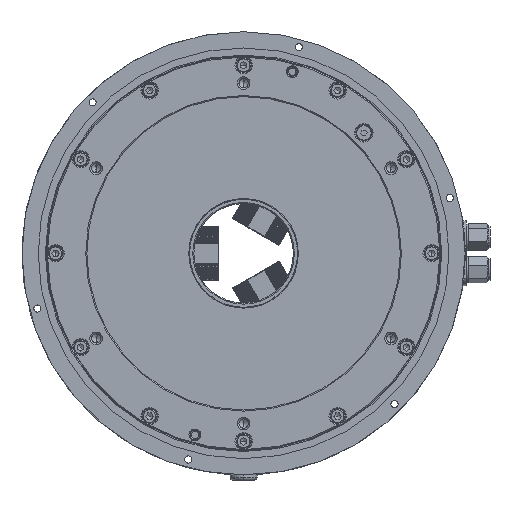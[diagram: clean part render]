
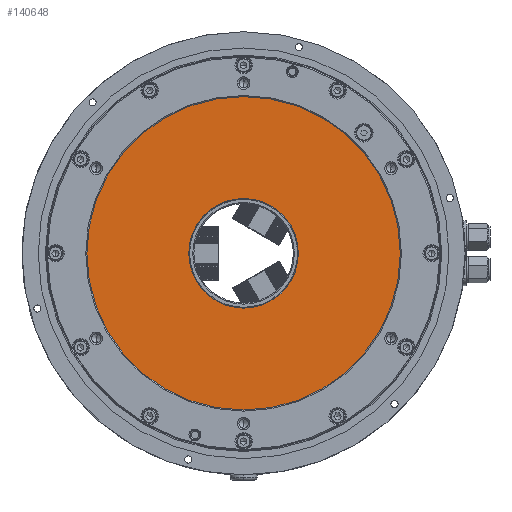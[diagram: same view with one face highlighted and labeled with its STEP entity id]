
A CAD part, left-side view. The second image highlights one B-rep face of the part: STEP entity #140648.
In plain terms, the highlighted planar face has unit normal (-1, 0, 0).
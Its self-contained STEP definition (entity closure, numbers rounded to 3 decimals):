
#259 = CIRCLE ( 'NONE', #6065, 50.7 ) ;
#3069 = DIRECTION ( 'NONE',  ( 0., 0., -1. ) ) ;
#4795 = ORIENTED_EDGE ( 'NONE', *, *, #46731, .T. ) ;
#6065 = AXIS2_PLACEMENT_3D ( 'NONE', #168701, #116342, #44301 ) ;
#6424 = VERTEX_POINT ( 'NONE', #40697 ) ;
#18760 = AXIS2_PLACEMENT_3D ( 'NONE', #160867, #67033, #118480 ) ;
#22310 = DIRECTION ( 'NONE',  ( 1., 0., 0. ) ) ;
#23536 = CIRCLE ( 'NONE', #46503, 145. ) ;
#26450 = CARTESIAN_POINT ( 'NONE',  ( -147., 0., 50.7 ) ) ;
#32475 = ORIENTED_EDGE ( 'NONE', *, *, #124266, .F. ) ;
#35263 = CIRCLE ( 'NONE', #75445, 50.7 ) ;
#38349 = VERTEX_POINT ( 'NONE', #44615 ) ;
#40697 = CARTESIAN_POINT ( 'NONE',  ( -147., 0., -50.7 ) ) ;
#41377 = VERTEX_POINT ( 'NONE', #122496 ) ;
#44301 = DIRECTION ( 'NONE',  ( 0., 0., -1. ) ) ;
#44511 = DIRECTION ( 'NONE',  ( 1., 0., 0. ) ) ;
#44615 = CARTESIAN_POINT ( 'NONE',  ( -147., 0., 145. ) ) ;
#46484 = PLANE ( 'NONE',  #168358 ) ;
#46503 = AXIS2_PLACEMENT_3D ( 'NONE', #66339, #22310, #172837 ) ;
#46731 = EDGE_CURVE ( 'NONE', #52608, #6424, #259, .T. ) ;
#49154 = CARTESIAN_POINT ( 'NONE',  ( -147., 145., 0. ) ) ;
#52608 = VERTEX_POINT ( 'NONE', #26450 ) ;
#62682 = FACE_BOUND ( 'NONE', #169903, .T. ) ;
#63494 = EDGE_CURVE ( 'NONE', #6424, #52608, #35263, .T. ) ;
#66339 = CARTESIAN_POINT ( 'NONE',  ( -147., 0., 0. ) ) ;
#67033 = DIRECTION ( 'NONE',  ( 1., 0., 0. ) ) ;
#75445 = AXIS2_PLACEMENT_3D ( 'NONE', #126523, #44511, #3069 ) ;
#76146 = DIRECTION ( 'NONE',  ( 0., 0., 1. ) ) ;
#84352 = EDGE_LOOP ( 'NONE', ( #112002, #32475 ) ) ;
#96389 = CIRCLE ( 'NONE', #18760, 145. ) ;
#100366 = EDGE_CURVE ( 'NONE', #41377, #38349, #23536, .T. ) ;
#112002 = ORIENTED_EDGE ( 'NONE', *, *, #100366, .F. ) ;
#116342 = DIRECTION ( 'NONE',  ( 1., 0., 0. ) ) ;
#117648 = FACE_OUTER_BOUND ( 'NONE', #84352, .T. ) ;
#118480 = DIRECTION ( 'NONE',  ( 0., 0., -1. ) ) ;
#122284 = ORIENTED_EDGE ( 'NONE', *, *, #63494, .T. ) ;
#122496 = CARTESIAN_POINT ( 'NONE',  ( -147., 0., -145. ) ) ;
#124266 = EDGE_CURVE ( 'NONE', #38349, #41377, #96389, .T. ) ;
#126523 = CARTESIAN_POINT ( 'NONE',  ( -147., 0., 0. ) ) ;
#130283 = DIRECTION ( 'NONE',  ( -1., 0., 0. ) ) ;
#140648 = ADVANCED_FACE ( 'NONE', ( #62682, #117648 ), #46484, .T. ) ;
#160867 = CARTESIAN_POINT ( 'NONE',  ( -147., 0., 0. ) ) ;
#168358 = AXIS2_PLACEMENT_3D ( 'NONE', #49154, #130283, #76146 ) ;
#168701 = CARTESIAN_POINT ( 'NONE',  ( -147., 0., 0. ) ) ;
#169903 = EDGE_LOOP ( 'NONE', ( #122284, #4795 ) ) ;
#172837 = DIRECTION ( 'NONE',  ( 0., 0., -1. ) ) ;
